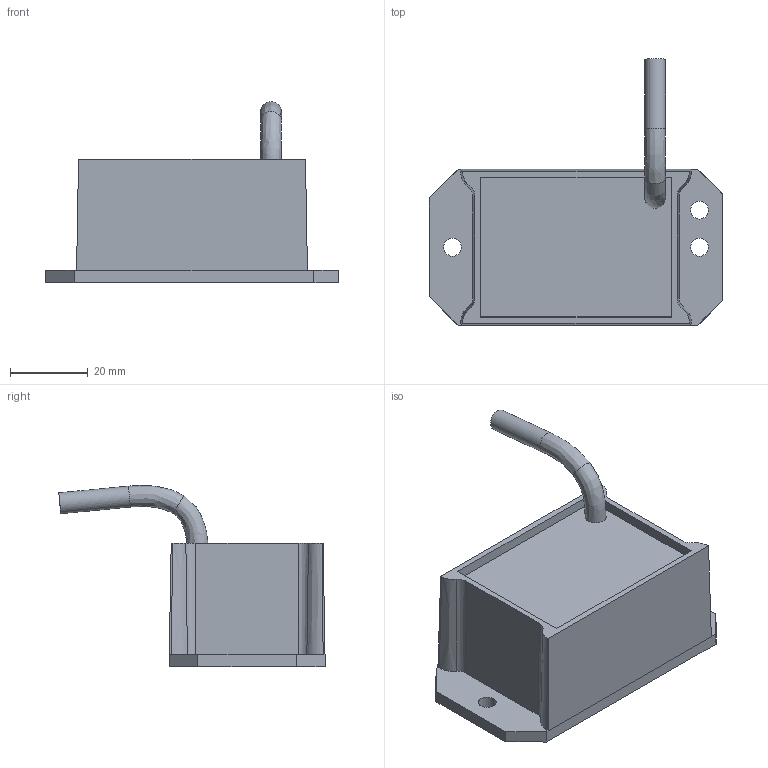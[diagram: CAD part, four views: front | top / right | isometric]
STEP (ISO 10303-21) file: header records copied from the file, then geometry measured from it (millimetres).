
FILE_DESCRIPTION(/* description */ (''),/* implementation_level */ '2;1');
FILE_NAME(/* name */ 'SINC-DL-CUST-ASSY.step',/* time_stamp */ '2025-06-03T13:33:22-05:00',/* author */ (''),/* organization */ (''),/* preprocessor_version */ 'ST-DEVELOPER v20.1',/* originating_system */ 'Autodesk Translation Framework v14.10.0.0',/* authorisation */ '');
FILE_SCHEMA (('AUTOMOTIVE_DESIGN { 1 0 10303 214 3 1 1 }'));
Length unit declared in the file: inch
Products named in the file (1): SINC-DL-CUST-ASSY
Bounding box: 75.41 x 68.49 x 46.55 mm (x, y, z)
Volume: 66370.3 mm3; surface area: 13399.9 mm2
Topology: 1 solids, 1 shells, 42 faces, 108 edges, 70 vertices
Faces by surface type: bspline 20, plane 16, cylinder 6
Full cylindrical faces by diameter (mm): 4.572 x3, 5.4 x1
Entity records: 2078 total; most frequent: CARTESIAN_POINT 1095, ORIENTED_EDGE 216, DIRECTION 150, EDGE_CURVE 108, VERTEX_POINT 70, LINE 66, VECTOR 66, EDGE_LOOP 50
